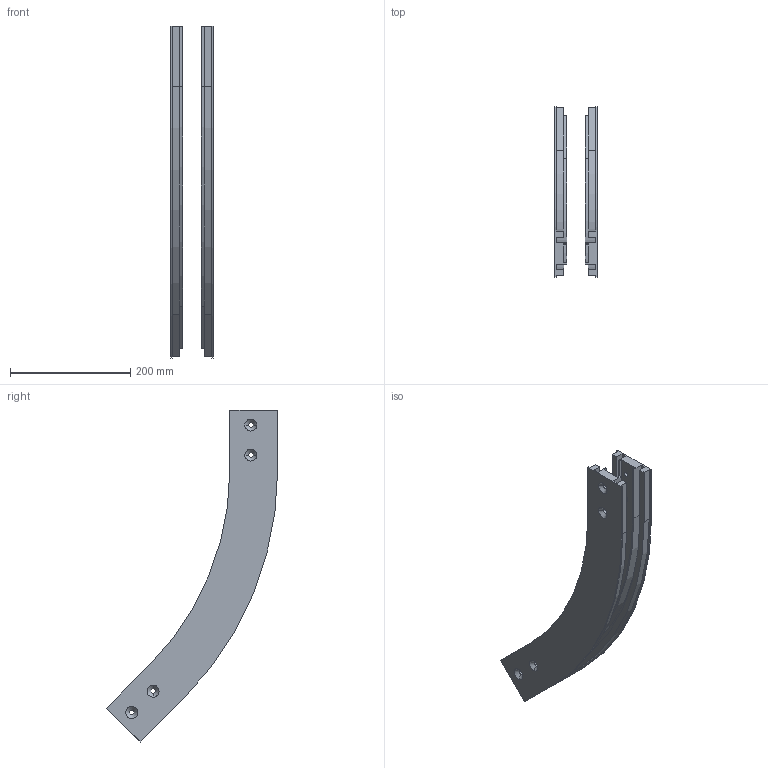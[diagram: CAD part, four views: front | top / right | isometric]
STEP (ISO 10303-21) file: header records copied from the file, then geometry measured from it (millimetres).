
FILE_DESCRIPTION (( 'STEP AP203' ), '1' );
FILE_NAME ('R1CV500-45.STEP', '2008-11-20T10:22:01', ( 'faber' ), ( '' ), 'SwSTEP 2.0', 'SolidWorks 2008', '' );
FILE_SCHEMA (( 'CONFIG_CONTROL_DESIGN' ));
Length unit declared in the file: millimetre
Products named in the file (1): R1CV500-45
Bounding box: 70 x 285.1 x 552.41 mm (x, y, z)
Volume: 1069766.9 mm3; surface area: 311063.2 mm2
Topology: 2 solids, 2 shells, 116 faces, 328 edges, 216 vertices
Faces by surface type: plane 64, cylinder 36, cone 16
Entity records: 3871 total; most frequent: CARTESIAN_POINT 661, DIRECTION 658, ORIENTED_EDGE 656, EDGE_CURVE 328, VECTOR 232, LINE 232, VERTEX_POINT 216, AXIS2_PLACEMENT_3D 213
